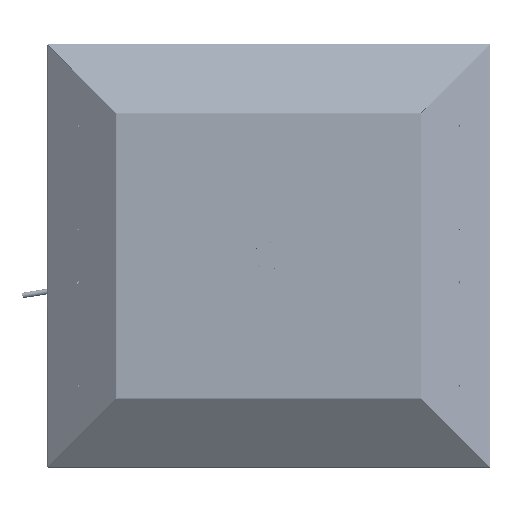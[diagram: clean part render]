
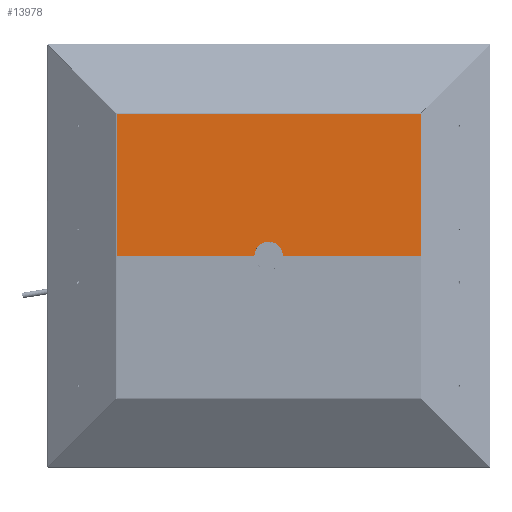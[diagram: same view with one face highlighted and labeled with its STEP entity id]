
A CAD part, top view. The second image highlights one B-rep face of the part: STEP entity #13978.
In plain terms, the highlighted planar face has unit normal (0, 0, 1) as drawn and (0, 1, 0) by its records, which use the part's own axes.
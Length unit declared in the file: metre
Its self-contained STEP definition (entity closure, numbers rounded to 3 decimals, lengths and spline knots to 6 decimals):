
#13978=ADVANCED_FACE('0:30280',(#27666),#27667,.T.);
#27666=FACE_OUTER_BOUND('',#43540,.T.);
#27667=PLANE('',#43541);
#43540=EDGE_LOOP('',(#72777,#72778,#72779,#72780,#72781,#72782,#72783,#72784,#72785,#72786,#72787));
#43541=AXIS2_PLACEMENT_3D('',#72788,#72789,#72790);
#72777=ORIENTED_EDGE('',*,*,#91324,.T.);
#72778=ORIENTED_EDGE('',*,*,#91328,.T.);
#72779=ORIENTED_EDGE('',*,*,#91320,.T.);
#72780=ORIENTED_EDGE('',*,*,#91347,.T.);
#72781=ORIENTED_EDGE('',*,*,#91348,.T.);
#72782=ORIENTED_EDGE('',*,*,#91349,.T.);
#72783=ORIENTED_EDGE('',*,*,#91350,.T.);
#72784=ORIENTED_EDGE('',*,*,#91351,.T.);
#72785=ORIENTED_EDGE('',*,*,#91352,.T.);
#72786=ORIENTED_EDGE('',*,*,#91353,.T.);
#72787=ORIENTED_EDGE('',*,*,#91337,.T.);
#72788=CARTESIAN_POINT('',(0.000124,0.258,-0.257069));
#72789=DIRECTION('',(0.0,1.0,0.0));
#72790=DIRECTION('',(1.0,0.0,-0.0));
#91320=EDGE_CURVE('0:30486',#120710,#120728,#120730,.F.);
#91324=EDGE_CURVE('0:30498',#120736,#120733,#120737,.T.);
#91328=EDGE_CURVE('0:30510',#120733,#120710,#120742,.T.);
#91337=EDGE_CURVE('0:30537',#120758,#120736,#120759,.F.);
#91347=EDGE_CURVE('0:30567',#120728,#120777,#120778,.F.);
#91348=EDGE_CURVE('0:30570',#120777,#120779,#120780,.T.);
#91349=EDGE_CURVE('0:30573',#120779,#120781,#120782,.T.);
#91350=EDGE_CURVE('0:30576',#120781,#120783,#120784,.F.);
#91351=EDGE_CURVE('0:30579',#120783,#120785,#120786,.T.);
#91352=EDGE_CURVE('0:30582',#120785,#120787,#120788,.T.);
#91353=EDGE_CURVE('0:30585',#120787,#120758,#120789,.F.);
#120710=VERTEX_POINT('',#145792);
#120728=VERTEX_POINT('',#145816);
#120730=LINE('',#145818,#145819);
#120733=VERTEX_POINT('',#145824);
#120736=VERTEX_POINT('',#145828);
#120737=CIRCLE('',#145829,0.0515);
#120742=CIRCLE('',#145835,0.0515);
#120758=VERTEX_POINT('',#145859);
#120759=LINE('',#145860,#145861);
#120777=VERTEX_POINT('',#145884);
#120778=LINE('',#145885,#145886);
#120779=VERTEX_POINT('',#145887);
#120780=LINE('',#145888,#145889);
#120781=VERTEX_POINT('',#145890);
#120782=LINE('',#145891,#145892);
#120783=VERTEX_POINT('',#145893);
#120784=LINE('',#145894,#145895);
#120785=VERTEX_POINT('',#145896);
#120786=LINE('',#145897,#145898);
#120787=VERTEX_POINT('',#145899);
#120788=LINE('',#145900,#145901);
#120789=LINE('',#145902,#145903);
#145792=CARTESIAN_POINT('',(-2.095375,0.258,0.01525));
#145816=CARTESIAN_POINT('',(-1.597335,0.258,0.01525));
#145818=CARTESIAN_POINT('',(-0.923376,0.258,0.01525));
#145819=VECTOR('',#165179,0.001);
#145824=CARTESIAN_POINT('',(-2.146876,0.258,-0.03625));
#145828=CARTESIAN_POINT('',(-2.198376,0.258,0.01525));
#145829=AXIS2_PLACEMENT_3D('',#165183,#165184,#165185);
#145835=AXIS2_PLACEMENT_3D('',#165193,#165194,#165195);
#145859=CARTESIAN_POINT('',(-2.696417,0.258,0.01525));
#145860=CARTESIAN_POINT('',(-1.223376,0.258,0.01525));
#145861=VECTOR('',#165204,0.001);
#145884=CARTESIAN_POINT('',(-1.597335,0.258,-0.498916));
#145885=CARTESIAN_POINT('',(-1.597335,0.258,-0.253201));
#145886=VECTOR('',#165222,0.001);
#145887=CARTESIAN_POINT('',(-1.59771,0.258,-0.498916));
#145888=CARTESIAN_POINT('',(-0.798376,0.258,-0.498916));
#145889=VECTOR('',#165223,0.001);
#145890=CARTESIAN_POINT('',(-1.59771,0.258,-0.499291));
#145891=CARTESIAN_POINT('',(-1.59771,0.258,-0.377993));
#145892=VECTOR('',#165224,0.001);
#145893=CARTESIAN_POINT('',(-2.696042,0.258,-0.499291));
#145894=CARTESIAN_POINT('',(-1.073376,0.258,-0.499291));
#145895=VECTOR('',#165225,0.001);
#145896=CARTESIAN_POINT('',(-2.696042,0.258,-0.498916));
#145897=CARTESIAN_POINT('',(-2.696042,0.258,-0.37841));
#145898=VECTOR('',#165226,0.001);
#145899=CARTESIAN_POINT('',(-2.696417,0.258,-0.498916));
#145900=CARTESIAN_POINT('',(-1.347959,0.258,-0.498916));
#145901=VECTOR('',#165227,0.001);
#145902=CARTESIAN_POINT('',(-2.696417,0.258,-0.253201));
#145903=VECTOR('',#165228,0.001);
#165179=DIRECTION('',(-1.0,0.0,0.0));
#165183=CARTESIAN_POINT('',(-2.146876,0.258,0.01525));
#165184=DIRECTION('',(0.0,-1.0,0.0));
#165185=DIRECTION('',(1.0,0.0,0.));
#165193=CARTESIAN_POINT('',(-2.146875,0.258,0.01525));
#165194=DIRECTION('',(-0.0,-1.0,-0.0));
#165195=DIRECTION('',(-1.0,0.0,0.0));
#165204=DIRECTION('',(-1.0,0.0,0.0));
#165222=DIRECTION('',(0.0,0.0,1.0));
#165223=DIRECTION('',(-1.0,0.0,0.0));
#165224=DIRECTION('',(0.0,0.0,-1.0));
#165225=DIRECTION('',(1.0,-0.0,0.0));
#165226=DIRECTION('',(-0.0,0.0,1.0));
#165227=DIRECTION('',(-1.0,0.0,0.0));
#165228=DIRECTION('',(0.0,0.0,-1.0));
